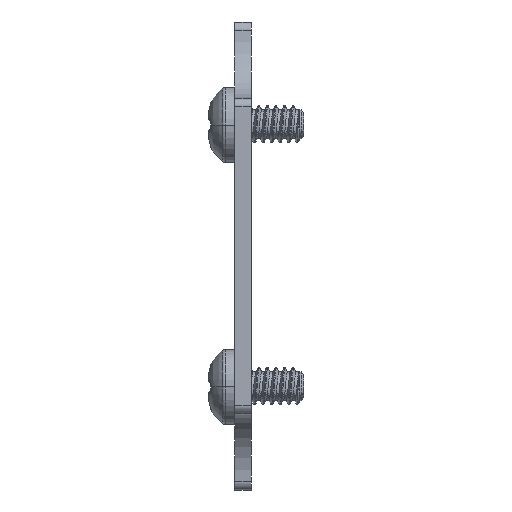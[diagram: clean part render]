
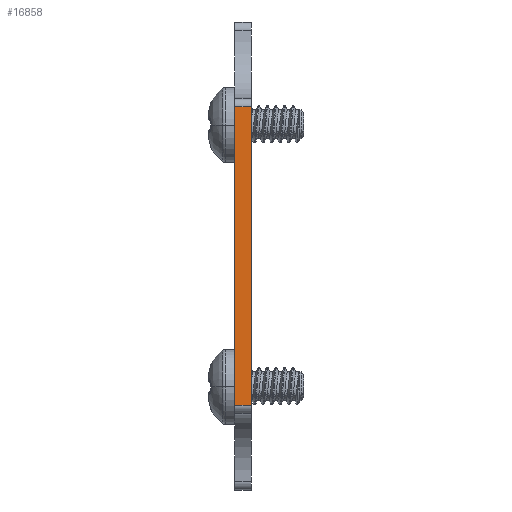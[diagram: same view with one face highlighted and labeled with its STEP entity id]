
A CAD part, left-side view. The second image highlights one B-rep face of the part: STEP entity #16858.
In plain terms, the highlighted planar face has unit normal (-1, 0, 0).
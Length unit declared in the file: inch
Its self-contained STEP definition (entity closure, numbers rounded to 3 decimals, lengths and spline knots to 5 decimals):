
#260 = DIRECTION ( 'NONE',  ( 0., 0., -1. ) ) ;
#414 = VERTEX_POINT ( 'NONE', #14681 ) ;
#1420 = DIRECTION ( 'NONE',  ( 0., -1., 0. ) ) ;
#1554 = VERTEX_POINT ( 'NONE', #16747 ) ;
#1671 = PLANE ( 'NONE',  #16861 ) ;
#2332 = VECTOR ( 'NONE', #14078, 39.37008 ) ;
#3078 = VECTOR ( 'NONE', #14854, 39.37008 ) ;
#3089 = DIRECTION ( 'NONE',  ( 1., 0., 0. ) ) ;
#3159 = CARTESIAN_POINT ( 'NONE',  ( -1.82874, 0.06, -0.5379 ) ) ;
#5306 = EDGE_CURVE ( 'NONE', #16965, #1554, #16250, .T. ) ;
#6883 = FACE_OUTER_BOUND ( 'NONE', #12741, .T. ) ;
#7434 = VECTOR ( 'NONE', #16489, 39.37008 ) ;
#8613 = EDGE_CURVE ( 'NONE', #414, #10349, #15253, .T. ) ;
#9320 = EDGE_CURVE ( 'NONE', #414, #16965, #15560, .T. ) ;
#9547 = LINE ( 'NONE', #14941, #3078 ) ;
#9790 = CARTESIAN_POINT ( 'NONE',  ( -1.82874, 0.06, -0.5379 ) ) ;
#10349 = VERTEX_POINT ( 'NONE', #15280 ) ;
#10387 = ORIENTED_EDGE ( 'NONE', *, *, #5306, .F. ) ;
#11576 = ORIENTED_EDGE ( 'NONE', *, *, #8613, .T. ) ;
#12741 = EDGE_LOOP ( 'NONE', ( #16616, #10387, #17243, #11576 ) ) ;
#13991 = VECTOR ( 'NONE', #1420, 39.37008 ) ;
#14078 = DIRECTION ( 'NONE',  ( 0., 0., 1. ) ) ;
#14681 = CARTESIAN_POINT ( 'NONE',  ( -1.82874, 0.06, -0.5379 ) ) ;
#14847 = CARTESIAN_POINT ( 'NONE',  ( -1.82874, 0.06, 0.5379 ) ) ;
#14854 = DIRECTION ( 'NONE',  ( 0., 0., 1. ) ) ;
#14941 = CARTESIAN_POINT ( 'NONE',  ( -1.82874, 0., -0.5379 ) ) ;
#15253 = LINE ( 'NONE', #3159, #7434 ) ;
#15280 = CARTESIAN_POINT ( 'NONE',  ( -1.82874, 0., -0.5379 ) ) ;
#15526 = CARTESIAN_POINT ( 'NONE',  ( -1.82874, 0.06, 0.5379 ) ) ;
#15560 = LINE ( 'NONE', #16538, #2332 ) ;
#15794 = EDGE_CURVE ( 'NONE', #10349, #1554, #9547, .T. ) ;
#16250 = LINE ( 'NONE', #14847, #13991 ) ;
#16489 = DIRECTION ( 'NONE',  ( 0., -1., 0. ) ) ;
#16538 = CARTESIAN_POINT ( 'NONE',  ( -1.82874, 0.06, -0.5379 ) ) ;
#16616 = ORIENTED_EDGE ( 'NONE', *, *, #15794, .T. ) ;
#16747 = CARTESIAN_POINT ( 'NONE',  ( -1.82874, 0., 0.5379 ) ) ;
#16858 = ADVANCED_FACE ( 'NONE', ( #6883 ), #1671, .F. ) ;
#16861 = AXIS2_PLACEMENT_3D ( 'NONE', #9790, #3089, #260 ) ;
#16965 = VERTEX_POINT ( 'NONE', #15526 ) ;
#17243 = ORIENTED_EDGE ( 'NONE', *, *, #9320, .F. ) ;
